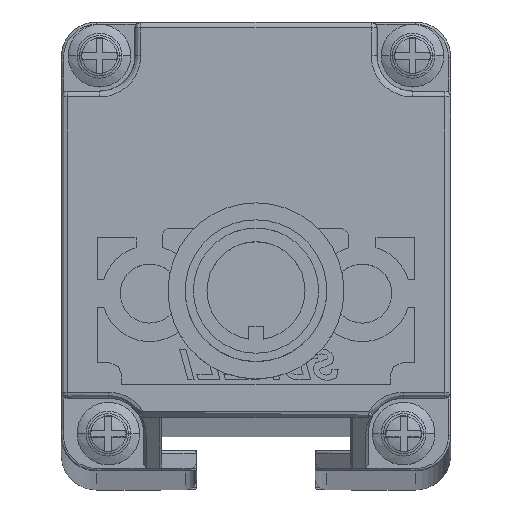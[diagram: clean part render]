
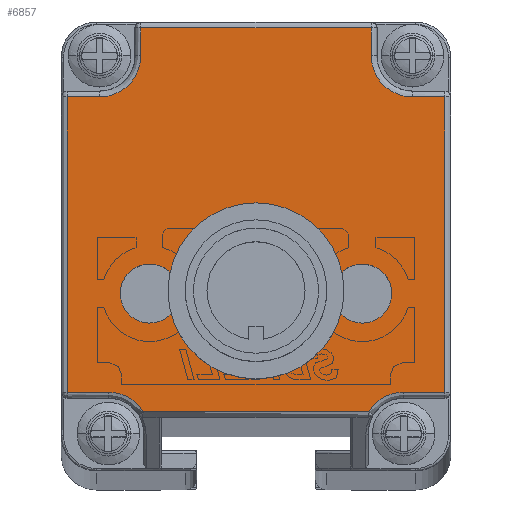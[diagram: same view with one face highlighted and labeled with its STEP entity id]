
A CAD part, top view. The second image highlights one B-rep face of the part: STEP entity #6857.
In plain terms, the highlighted planar face has unit normal (0, 0, 1).
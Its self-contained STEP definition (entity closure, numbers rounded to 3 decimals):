
#2781=CARTESIAN_POINT('',(0.65,-8.054,
805.276));
#2782=DIRECTION('',(0.,0.,1.));
#2783=DIRECTION('',(1.,0.,0.));
#2784=AXIS2_PLACEMENT_3D('',#2781,#2782,#2783);
#2786=CARTESIAN_POINT('',(0.65,-8.054,
805.276));
#2787=DIRECTION('',(0.,0.,1.));
#2788=DIRECTION('',(-1.,0.,0.));
#2789=AXIS2_PLACEMENT_3D('',#2786,#2787,#2788);
#2791=CARTESIAN_POINT('',(9.65,-8.055,805.276));
#2792=DIRECTION('',(0.,0.,1.));
#2793=DIRECTION('',(1.,-0.007,0.));
#2794=AXIS2_PLACEMENT_3D('',#2791,#2792,#2793);
#2796=CARTESIAN_POINT('',(9.65,-8.055,805.276));
#2797=DIRECTION('',(0.,0.,1.));
#2798=DIRECTION('',(-1.,0.007,0.));
#2799=AXIS2_PLACEMENT_3D('',#2796,#2797,#2798);
#2801=CARTESIAN_POINT('',(-8.35,-8.054,
805.276));
#2802=DIRECTION('',(0.,0.,1.));
#2803=DIRECTION('',(1.,0.007,0.));
#2804=AXIS2_PLACEMENT_3D('',#2801,#2802,#2803);
#2806=CARTESIAN_POINT('',(-8.35,-8.054,
805.276));
#2807=DIRECTION('',(0.,0.,1.));
#2808=DIRECTION('',(-1.,-0.007,0.));
#2809=AXIS2_PLACEMENT_3D('',#2806,#2807,#2808);
#2811=CARTESIAN_POINT('',(-11.85,-19.904,
805.276));
#2812=DIRECTION('',(0.,0.,1.));
#2813=DIRECTION('',(0.849,0.528,0.));
#2814=AXIS2_PLACEMENT_3D('',#2811,#2812,#2813);
#2816=CARTESIAN_POINT('',(-12.6,12.094,805.276));
#2817=DIRECTION('',(0.,0.,1.));
#2818=DIRECTION('',(0.,-1.,0.));
#2819=AXIS2_PLACEMENT_3D('',#2816,#2817,#2818);
#2821=CARTESIAN_POINT('',(13.9,12.094,805.276));
#2822=DIRECTION('',(0.,0.,1.));
#2823=DIRECTION('',(-1.,0.,0.));
#2824=AXIS2_PLACEMENT_3D('',#2821,#2822,#2823);
#2826=CARTESIAN_POINT('',(13.15,-19.904,805.276));
#2827=DIRECTION('',(0.,0.,1.));
#2828=DIRECTION('',(0.,1.,0.));
#2829=AXIS2_PLACEMENT_3D('',#2826,#2827,#2828);
#4397=DIRECTION('',(1.,0.,0.));
#4398=VECTOR('',#4397,19.056);
#4399=CARTESIAN_POINT('',(-8.878,-18.056,
805.276));
#4400=LINE('',#4399,#4398);
#4702=DIRECTION('',(1.,0.,0.));
#4703=VECTOR('',#4702,3.5);
#4704=CARTESIAN_POINT('',(13.15,-16.404,805.276));
#4705=LINE('',#4704,#4703);
#4833=DIRECTION('',(0.,1.,0.));
#4834=VECTOR('',#4833,24.998);
#4835=CARTESIAN_POINT('',(16.65,-16.404,805.276));
#4836=LINE('',#4835,#4834);
#4872=DIRECTION('',(-1.,0.,0.));
#4873=VECTOR('',#4872,2.75);
#4874=CARTESIAN_POINT('',(16.65,8.594,805.276));
#4875=LINE('',#4874,#4873);
#4899=DIRECTION('',(0.,1.,0.));
#4900=VECTOR('',#4899,2.35);
#4901=CARTESIAN_POINT('',(10.4,12.094,805.276));
#4902=LINE('',#4901,#4900);
#5110=DIRECTION('',(-1.,0.,0.));
#5111=VECTOR('',#5110,19.5);
#5112=CARTESIAN_POINT('',(10.4,14.444,805.276));
#5113=LINE('',#5112,#5111);
#5149=DIRECTION('',(0.,-1.,0.));
#5150=VECTOR('',#5149,2.35);
#5151=CARTESIAN_POINT('',(-9.1,14.444,805.276));
#5152=LINE('',#5151,#5150);
#5176=DIRECTION('',(-1.,0.,0.));
#5177=VECTOR('',#5176,2.75);
#5178=CARTESIAN_POINT('',(-12.6,8.594,805.276));
#5179=LINE('',#5178,#5177);
#5347=DIRECTION('',(0.,-1.,0.));
#5348=VECTOR('',#5347,24.998);
#5349=CARTESIAN_POINT('',(-15.35,8.594,805.276));
#5350=LINE('',#5349,#5348);
#5386=DIRECTION('',(1.,0.,0.));
#5387=VECTOR('',#5386,3.5);
#5388=CARTESIAN_POINT('',(-15.35,-16.404,
805.276));
#5389=LINE('',#5388,#5387);
#5943=CARTESIAN_POINT('',(12.15,-8.072,805.276));
#5944=VERTEX_POINT('',#5943);
#5945=CARTESIAN_POINT('',(7.15,-8.039,805.276));
#5946=VERTEX_POINT('',#5945);
#5947=CARTESIAN_POINT('',(-8.878,-18.056,
805.276));
#5948=CARTESIAN_POINT('',(-11.85,-16.404,
805.276));
#5949=VERTEX_POINT('',#5947);
#5950=VERTEX_POINT('',#5948);
#5951=CARTESIAN_POINT('',(-15.35,-16.404,
805.276));
#5952=VERTEX_POINT('',#5951);
#5953=CARTESIAN_POINT('',(-15.35,8.594,805.276));
#5954=VERTEX_POINT('',#5953);
#5955=CARTESIAN_POINT('',(-12.6,8.594,805.276));
#5956=VERTEX_POINT('',#5955);
#5957=CARTESIAN_POINT('',(-9.1,12.094,805.276));
#5958=VERTEX_POINT('',#5957);
#5959=CARTESIAN_POINT('',(-9.1,14.444,805.276));
#5960=VERTEX_POINT('',#5959);
#5961=CARTESIAN_POINT('',(10.4,14.444,805.276));
#5962=VERTEX_POINT('',#5961);
#5963=CARTESIAN_POINT('',(10.4,12.094,805.276));
#5964=VERTEX_POINT('',#5963);
#5965=CARTESIAN_POINT('',(13.9,8.594,805.276));
#5966=VERTEX_POINT('',#5965);
#5967=CARTESIAN_POINT('',(16.65,8.594,805.276));
#5968=VERTEX_POINT('',#5967);
#5969=CARTESIAN_POINT('',(16.65,-16.404,805.276));
#5970=VERTEX_POINT('',#5969);
#5971=CARTESIAN_POINT('',(13.15,-16.404,805.276));
#5972=VERTEX_POINT('',#5971);
#5973=CARTESIAN_POINT('',(10.178,-18.056,805.276));
#5974=VERTEX_POINT('',#5973);
#5975=CARTESIAN_POINT('',(-5.85,-8.037,
805.276));
#5976=CARTESIAN_POINT('',(-10.85,-8.07,
805.276));
#5977=VERTEX_POINT('',#5975);
#5978=VERTEX_POINT('',#5976);
#5979=CARTESIAN_POINT('',(3.65,-8.054,805.276));
#5980=CARTESIAN_POINT('',(-2.35,-8.054,
805.276));
#5981=VERTEX_POINT('',#5979);
#5982=VERTEX_POINT('',#5980);
#6806=CARTESIAN_POINT('',(0.65,0.944,
805.276));
#6807=DIRECTION('',(0.,0.,1.));
#6808=DIRECTION('',(1.,0.,0.));
#6809=AXIS2_PLACEMENT_3D('',#6806,#6807,#6808);
#6810=PLANE('',#6809);
#6812=ORIENTED_EDGE('',*,*,#6811,.T.);
#6814=ORIENTED_EDGE('',*,*,#6813,.F.);
#6816=ORIENTED_EDGE('',*,*,#6815,.F.);
#6818=ORIENTED_EDGE('',*,*,#6817,.F.);
#6820=ORIENTED_EDGE('',*,*,#6819,.T.);
#6822=ORIENTED_EDGE('',*,*,#6821,.F.);
#6824=ORIENTED_EDGE('',*,*,#6823,.F.);
#6826=ORIENTED_EDGE('',*,*,#6825,.F.);
#6828=ORIENTED_EDGE('',*,*,#6827,.T.);
#6830=ORIENTED_EDGE('',*,*,#6829,.F.);
#6832=ORIENTED_EDGE('',*,*,#6831,.F.);
#6834=ORIENTED_EDGE('',*,*,#6833,.F.);
#6836=ORIENTED_EDGE('',*,*,#6835,.T.);
#6838=ORIENTED_EDGE('',*,*,#6837,.F.);
#6839=EDGE_LOOP('',(#6812,#6814,#6816,#6818,#6820,#6822,#6824,#6826,#6828,#6830,
#6832,#6834,#6836,#6838));
#6840=FACE_OUTER_BOUND('',#6839,.F.);
#6841=ORIENTED_EDGE('',*,*,#6793,.T.);
#6842=ORIENTED_EDGE('',*,*,#6754,.T.);
#6843=EDGE_LOOP('',(#6841,#6842));
#6844=FACE_BOUND('',#6843,.F.);
#6846=ORIENTED_EDGE('',*,*,#6845,.T.);
#6848=ORIENTED_EDGE('',*,*,#6847,.T.);
#6849=EDGE_LOOP('',(#6846,#6848));
#6850=FACE_BOUND('',#6849,.F.);
#6852=ORIENTED_EDGE('',*,*,#6851,.T.);
#6854=ORIENTED_EDGE('',*,*,#6853,.T.);
#6855=EDGE_LOOP('',(#6852,#6854));
#6856=FACE_BOUND('',#6855,.F.);
#2785=CIRCLE('',#2784,3.);
#2790=CIRCLE('',#2789,3.);
#2795=CIRCLE('',#2794,2.5);
#2800=CIRCLE('',#2799,2.5);
#2805=CIRCLE('',#2804,2.5);
#2810=CIRCLE('',#2809,2.5);
#2815=CIRCLE('',#2814,3.5);
#2820=CIRCLE('',#2819,3.5);
#2825=CIRCLE('',#2824,3.5);
#2830=CIRCLE('',#2829,3.5);
#6754=EDGE_CURVE('',#5946,#5944,#2800,.T.);
#6793=EDGE_CURVE('',#5944,#5946,#2795,.T.);
#6811=EDGE_CURVE('',#5949,#5950,#2815,.T.);
#6813=EDGE_CURVE('',#5952,#5950,#5389,.T.);
#6815=EDGE_CURVE('',#5954,#5952,#5350,.T.);
#6817=EDGE_CURVE('',#5956,#5954,#5179,.T.);
#6819=EDGE_CURVE('',#5956,#5958,#2820,.T.);
#6821=EDGE_CURVE('',#5960,#5958,#5152,.T.);
#6823=EDGE_CURVE('',#5962,#5960,#5113,.T.);
#6825=EDGE_CURVE('',#5964,#5962,#4902,.T.);
#6827=EDGE_CURVE('',#5964,#5966,#2825,.T.);
#6829=EDGE_CURVE('',#5968,#5966,#4875,.T.);
#6831=EDGE_CURVE('',#5970,#5968,#4836,.T.);
#6833=EDGE_CURVE('',#5972,#5970,#4705,.T.);
#6835=EDGE_CURVE('',#5972,#5974,#2830,.T.);
#6837=EDGE_CURVE('',#5949,#5974,#4400,.T.);
#6845=EDGE_CURVE('',#5977,#5978,#2805,.T.);
#6847=EDGE_CURVE('',#5978,#5977,#2810,.T.);
#6851=EDGE_CURVE('',#5981,#5982,#2785,.T.);
#6853=EDGE_CURVE('',#5982,#5981,#2790,.T.);
#6857=ADVANCED_FACE('',(#6840,#6844,#6850,#6856),#6810,.T.);
